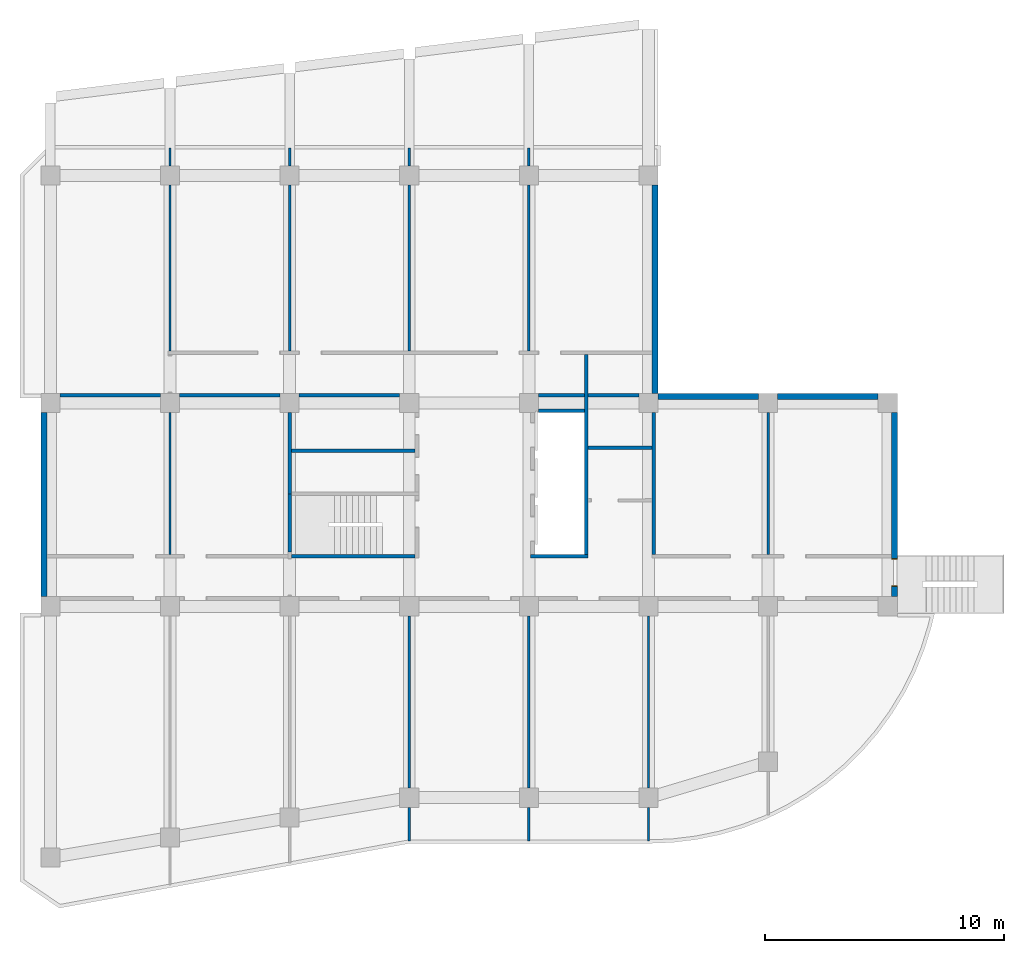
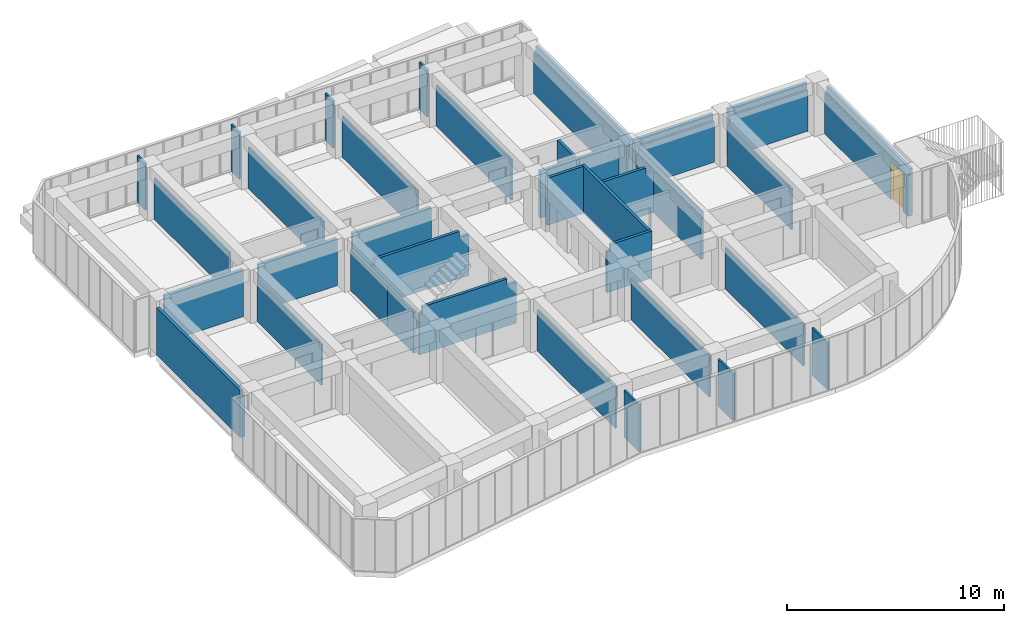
# One storey, part 2 of 6: 27 walls, 1 door, 1 opening.
"""IFC2X3 building model written with IfcOpenShell, lengths in millimetres."""

from ifc_helpers import new_model, entity, si_unit, converted_unit, derived_unit, money_unit, direction, frame, origin_with_axes, place, context, subcontext, project, spatial, open_shell, faceted_brep, surface_model, source, transform, mapped, material, type_object, element, fill, save


model = new_model("IFC2X3")

# Units and contexts
model_context = context("Model", 3, precision=0.01, world=origin_with_axes(), true_north=direction((0.0, 1.0)))
body_context = subcontext(model_context, "Body", "Model", "MODEL_VIEW")
ifc_project = project(units=[si_unit("LENGTHUNIT", "METRE", prefix="MILLI"), si_unit("AREAUNIT", "SQUARE_METRE"), si_unit("VOLUMEUNIT", "CUBIC_METRE"), converted_unit("PLANEANGLEUNIT", "DEGREE", entity("IfcPlaneAngleMeasure", 0.0174532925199), si_unit("PLANEANGLEUNIT", "RADIAN"), dimensions=[0, 0, 0, 0, 0, 0, 0]), si_unit("SOLIDANGLEUNIT", "STERADIAN"), money_unit("JPY"), converted_unit("TIMEUNIT", "Year", entity("IfcTimeMeasure", 31556926.0), si_unit("TIMEUNIT", "SECOND"), dimensions=[0, 0, 1, 0, 0, 0, 0]), si_unit("MASSUNIT", "GRAM", prefix="KILO"), si_unit("THERMODYNAMICTEMPERATUREUNIT", "DEGREE_CELSIUS"), si_unit("LUMINOUSINTENSITYUNIT", "LUMEN"), si_unit("ENERGYUNIT", "JOULE", prefix="MEGA"), derived_unit("THERMALCONDUCTANCEUNIT", [(si_unit("POWERUNIT", "WATT"), 1), (si_unit("LENGTHUNIT", "METRE"), -1), (si_unit("THERMODYNAMICTEMPERATUREUNIT", "KELVIN"), -1)]), derived_unit("SPECIFICHEATCAPACITYUNIT", [(si_unit("ENERGYUNIT", "JOULE"), 1), (si_unit("MASSUNIT", "GRAM", prefix="KILO"), -1), (si_unit("THERMODYNAMICTEMPERATUREUNIT", "KELVIN"), -1)]), derived_unit("MASSDENSITYUNIT", [(si_unit("MASSUNIT", "GRAM", prefix="KILO"), 1), (si_unit("VOLUMEUNIT", "CUBIC_METRE"), -1)])], contexts=[model_context])

# Site, building, storey
site_placement = place(None, origin_with_axes())
site = spatial("IfcSite", under=ifc_project, at=site_placement, Name="サイト", CompositionType="ELEMENT")
building_placement = place(site_placement, origin_with_axes())
building = spatial("IfcBuilding", under=site, at=building_placement, Name="建築", CompositionType="ELEMENT")
storey_placement = place(building_placement, frame((0.0, 0.0, 6000.0), z_axis=(0.0, 0.0, 1.0), x_axis=(1.0, 0.0, 0.0)))
storey = spatial("IfcBuildingStorey", under=building, at=storey_placement, Name="3FL", CompositionType="ELEMENT", Elevation=6000.0)

# Walls
ifc_material_1 = material(Name="コンクリート")
wall_type_1 = type_object("IfcWallType", Name="コンクリート 150", PredefinedType="NOTDEFINED")
wall_1_placement = place(storey_placement, frame((10000.0, 2100.0, 0.0), z_axis=(0.0, 0.0, 1.0), x_axis=(1.0, 0.0, 0.0)))
element("IfcWall", 1, at=wall_1_placement, inside=storey, type_object=wall_type_1, material=ifc_material_1, Name="W3", context=body_context, shape_type="Brep", body=[
    faceted_brep([(75.0, 75.0, 0.0), (75.0, 75.0, 2300.0), (250.0, 75.0, 2300.0), (250.0, 75.0, 2650.0), (3631.20524398, 75.0, 2650.0), (4750.0, 75.0, 2650.0), (4750.0, 75.0, 2300.0), (5250.0, 75.0, 2300.0), (5249.99999555, 75.0, 0.0), (75.0, -75.0, 0.0), (75.0, -75.0, 2300.0), (250.0, -75.0, 2300.0), (250.0, -75.0, 2650.0), (4750.0, -75.0, 2650.0), (4750.0, -75.0, 2300.0), (5250.0, -75.0, 2300.0), (5249.99999555, -75.0, 0.0)], [[[0, 1, 2, 3, 4, 5, 6, 7, 8]], [[9, 10, 1, 0]], [[11, 2, 1, 10]], [[11, 12, 3, 2]], [[4, 3, 12, 13, 5]], [[14, 6, 5, 13]], [[14, 15, 7, 6]], [[8, 7, 15, 16]], [[0, 8, 16, 9]], [[12, 11, 10, 9, 16, 15, 14, 13]]]),
])
wall_2_placement = place(storey_placement, frame((20150.0, 8175.0, 0.0), z_axis=(0.0, 0.0, 1.0), x_axis=(1.0, 0.0, 0.0)))
element("IfcWall", 2, at=wall_2_placement, inside=storey, type_object=wall_type_1, material=ifc_material_1, Name="W8", context=body_context, shape_type="Brep", body=[
    faceted_brep([(2175.0, 75.0, 0.0), (250.0, 75.0, 0.0), (250.0, 75.0, 2650.0), (2175.0, 75.0, 2650.0), (2175.0, -75.0, 0.0), (250.0, -75.0, 0.0), (250.0, -75.0, 2650.0), (2175.0, -75.0, 2650.0)], [[[0, 1, 2, 3]], [[4, 5, 1, 0]], [[5, 6, 2, 1]], [[3, 2, 6, 7]], [[7, 4, 0, 3]], [[7, 6, 5, 4]]]),
])
wall_3_placement = place(storey_placement, frame((10000.0, 6500.0, 0.0), z_axis=(0.0, 0.0, 1.0), x_axis=(1.0, 0.0, 0.0)))
element("IfcWall", 3, at=wall_3_placement, inside=storey, type_object=wall_type_1, material=ifc_material_1, Name="W5", context=body_context, shape_type="Brep", body=[
    faceted_brep([(75.0, 75.0, 0.0), (75.0, 75.0, 2300.0), (250.0, 75.0, 2300.0), (250.0, 75.0, 2650.0), (4750.0, 75.0, 2650.0), (4750.0, 75.0, 2300.0), (5250.0, 75.0, 2300.0), (5249.99999555, 75.0, 0.0), (75.0, -75.0, 0.0), (75.0, -75.0, 2300.0), (250.0, -75.0, 2300.0), (250.0, -75.0, 2650.0), (4750.0, -75.0, 2650.0), (4750.0, -75.0, 2300.0), (5250.0, -75.0, 2300.0), (5249.99999555, -75.0, 0.0)], [[[0, 1, 2, 3, 4, 5, 6, 7]], [[8, 9, 1, 0]], [[10, 2, 1, 9]], [[10, 11, 3, 2]], [[4, 3, 11, 12]], [[13, 5, 4, 12]], [[13, 14, 6, 5]], [[7, 6, 14, 15]], [[8, 0, 7, 15]], [[11, 10, 9, 8, 15, 14, 13, 12]]]),
])
wall_4_placement = place(storey_placement, frame((10000.0, 4700.0, 0.0), z_axis=(0.0, 0.0, 1.0), x_axis=(0.0, 1.0, 0.0)))
element("IfcWall", 4, at=wall_4_placement, inside=storey, type_object=wall_type_1, material=ifc_material_1, Name="W1", context=body_context, shape_type="Brep", body=[
    faceted_brep([(0.0, -75.0, 0.0), (3400.0, -75.0, 0.0), (3400.0, -75.0, 2300.0), (0.0, -75.0, 2300.0), (0.0, 75.0, 0.0), (3400.0, 75.0, 0.0), (3400.0, 75.0, 2300.0), (0.0, 75.0, 2300.0)], [[[0, 1, 2, 3]], [[4, 5, 1, 0]], [[5, 6, 2, 1]], [[3, 2, 6, 7]], [[4, 0, 3, 7]], [[7, 6, 5, 4]]]),
])
wall_5_placement = place(storey_placement, frame((10000.0, 4700.0, 0.0), z_axis=(0.0, 0.0, 1.0), x_axis=(0.0, -1.0, 0.0)))
element("IfcWall", 5, at=wall_5_placement, inside=storey, type_object=wall_type_1, material=ifc_material_1, Name="W2", context=body_context, shape_type="Brep", body=[
    faceted_brep([(0.0, -75.0, 0.0), (0.0, -75.0, 2300.0), (0.0, 75.0, 2300.0), (0.0, 75.0, 0.0), (2425.0, -75.0, 0.0), (2425.0, -75.0, 2300.0), (2425.0, 75.0, 2300.0), (2425.0, 75.0, 0.0)], [[[0, 1, 2, 3]], [[4, 5, 1, 0]], [[5, 6, 2, 1]], [[3, 2, 6, 7]], [[4, 0, 3, 7]], [[7, 6, 5, 4]]]),
])
wall_6_placement = place(storey_placement, frame((22400.0, 2100.0, 0.0), z_axis=(0.0, 0.0, 1.0), x_axis=(0.0, 1.0, 0.0)))
element("IfcWall", 6, at=wall_6_placement, inside=storey, type_object=wall_type_1, material=ifc_material_1, Name="W8", context=body_context, shape_type="Brep", body=[
    faceted_brep([(8425.0, 75.0, 2650.0), (6650.0, 75.0, 2650.0), (6650.0, -75.0, 2650.0), (8425.0, -75.0, 2650.0), (6150.0, 75.0, 2300.0), (6650.0, 75.0, 2300.0), (8425.0, 75.0, 0.0), (75.0, 75.0, 0.0), (75.0, 75.0, 2650.0), (6150.0, 75.0, 2650.0), (6650.0, -75.0, 2300.0), (6150.0, -75.0, 2300.0), (6150.0, -75.0, 2650.0), (75.0, -75.0, 2650.0), (75.0, -75.0, 0.0), (8425.0, -75.0, 0.0)], [[[0, 1, 2, 3]], [[4, 5, 1, 0, 6, 7, 8, 9]], [[5, 10, 2, 1]], [[10, 11, 12, 13, 14, 15, 3, 2]], [[15, 6, 0, 3]], [[4, 11, 10, 5]], [[14, 7, 6, 15]], [[7, 14, 13, 8]], [[13, 12, 9, 8]], [[4, 9, 12, 11]]]),
])
wall_7_placement = place(storey_placement, frame((20150.0, 2100.0, 0.0), z_axis=(0.0, 0.0, 1.0), x_axis=(1.0, 0.0, 0.0)))
element("IfcWall", 7, at=wall_7_placement, inside=storey, type_object=wall_type_1, material=ifc_material_1, Name="W7", context=body_context, shape_type="Brep", body=[
    faceted_brep([(-75.0, 75.0, 0.0), (-75.0, 75.0, 2300.0), (100.0, 75.0, 2300.0), (100.0, 75.0, 2650.0), (2325.0, 75.0, 2650.0), (2325.0, 75.0, 0.0), (-75.0, -75.0, 0.0), (-75.0, -75.0, 2300.0), (100.0, -75.0, 2300.0), (100.0, -75.0, 2650.0), (2325.0, -75.0, 2650.0), (2325.0, -75.0, 0.0)], [[[0, 1, 2, 3, 4, 5]], [[6, 7, 1, 0]], [[8, 2, 1, 7]], [[8, 9, 3, 2]], [[4, 3, 9, 10]], [[11, 5, 4, 10]], [[6, 0, 5, 11]], [[9, 8, 7, 6, 11, 10]]]),
])
wall_8_placement = place(storey_placement, frame((25224.9999795, 2100.0, 0.0), z_axis=(0.0, 0.0, 1.0), x_axis=(0.0, 1.0, 0.0)))
element("IfcWall", 8, at=wall_8_placement, inside=storey, type_object=wall_type_1, material=ifc_material_1, Name="W5", context=body_context, shape_type="Brep", body=[
    faceted_brep([(75.0, -75.0, 0.0), (6000.0, -75.0, 0.0), (6000.0, -75.0, 2650.0), (75.0, -75.0, 2650.0), (75.0, 75.0, 0.0), (6000.0, 75.0, 0.0), (6000.0, -25.0000205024, 2300.0), (6000.0, -25.0000205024, 2650.0), (6000.0, 75.0, 2300.0), (75.0, -25.0000205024, 2650.0), (75.0, -25.0000205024, 2300.0), (75.0, 75.0, 2300.0)], [[[0, 1, 2, 3]], [[4, 5, 1, 0]], [[6, 7, 2, 1, 5, 8]], [[3, 2, 7, 9]], [[3, 9, 10, 11, 4, 0]], [[11, 8, 5, 4]], [[9, 7, 6, 10]], [[10, 6, 8, 11]]]),
])
wall_9_placement = place(storey_placement, frame((22400.0, 6625.000045, 0.0), z_axis=(0.0, 0.0, 1.0), x_axis=(1.0, 0.0, 0.0)))
element("IfcWall", 9, at=wall_9_placement, inside=storey, type_object=wall_type_1, material=ifc_material_1, Name="W8", context=body_context, shape_type="Brep", body=[
    faceted_brep([(75.0, 75.0, 2650.0), (2350.0, 75.0, 2650.0), (2350.0, 75.0, 2300.0), (2749.9999795, 75.0, 2300.0), (2749.9999795, 75.0, 0.0), (75.0, 75.0, 0.0), (75.0, -75.0, 2650.0), (2350.0, -75.0, 2650.0), (2350.0, -75.0, 2300.0), (2749.9999795, -75.0, 2300.0), (2749.9999795, -75.0, 0.0), (75.0, -75.0, 0.0)], [[[0, 1, 2, 3, 4, 5]], [[6, 7, 1, 0]], [[8, 2, 1, 7]], [[8, 9, 3, 2]], [[4, 3, 9, 10]], [[11, 5, 4, 10]], [[5, 11, 6, 0]], [[9, 8, 7, 6, 11, 10]]]),
])
wall_10_placement = place(storey_placement, frame((20150.0, 8825.000045, 0.0), z_axis=(0.0, 0.0, 1.0), x_axis=(1.0, 0.0, 0.0)))
element("IfcWall", 10, at=wall_10_placement, inside=storey, type_object=wall_type_1, material=ifc_material_1, Name="W6", context=body_context, shape_type="Brep", body=[
    faceted_brep([(2175.0, 75.0, 0.0), (250.0, 74.999955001, 0.0), (250.0, 74.999955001, 2650.0), (2175.0, 75.0, 2650.0), (2175.0, -75.0, 0.0), (250.0, -75.0, 0.0), (250.0, -75.0, 2650.0), (2175.0, -75.0, 2650.0)], [[[0, 1, 2, 3]], [[4, 5, 1, 0]], [[5, 6, 2, 1]], [[3, 2, 6, 7]], [[7, 4, 0, 3]], [[7, 6, 5, 4]]]),
    faceted_brep([(2325.0, -75.0, 2650.0), (4450.0, -75.000042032, 2650.0), (4450.0, 74.999955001, 2650.0), (2325.0, 75.0, 2650.0), (2325.0, -75.0, 0.0), (4450.0, -75.0, 0.0), (4450.0, 74.999955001, 0.0), (2325.0, 75.0, 0.0)], [[[0, 1, 2, 3]], [[4, 5, 1, 0]], [[5, 6, 2, 1]], [[3, 2, 6, 7]], [[3, 7, 4, 0]], [[7, 6, 5, 4]]]),
])
wall_11_placement = place(storey_placement, frame((15324.9999955, 8825.000045, 0.0), z_axis=(0.0, 0.0, 1.0), x_axis=(-1.0, 0.0, 0.0)))
element("IfcWall", 11, at=wall_11_placement, inside=storey, type_object=wall_type_1, material=ifc_material_1, Name="W8", context=body_context, shape_type="Brep", body=[
    faceted_brep([(4924.99999555, 75.0, 2650.0), (724.999995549, 75.0, 2650.0), (724.999995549, -74.999955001, 2650.0), (4924.99999555, -74.999955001, 2650.0), (4924.99999555, 75.0, 0.0), (724.999995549, 75.0, 0.0), (724.999995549, -74.999955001, 0.0), (4924.99999555, -74.999955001, 0.0)], [[[0, 1, 2, 3]], [[4, 5, 1, 0]], [[5, 6, 2, 1]], [[3, 2, 6, 7]], [[4, 0, 3, 7]], [[7, 6, 5, 4]]]),
])
for number, where, z_axis, x_axis, name in (
    (12, (10000.0, 8825.000045, 0.0), (0.0, 0.0, 1.0), (-1.0, 0.0, 0.0), "W9"),
    (13, (5000.0, 8825.000045, 0.0), (0.0, 0.0, 1.0), (-1.0, 0.0, 0.0), "W0"),
):
    element("IfcWall", number, at=place(storey_placement, frame(where, z_axis=z_axis, x_axis=x_axis)), inside=storey, type_object=wall_type_1, material=ifc_material_1, Name=name, context=body_context, shape_type="Brep", body=[
        faceted_brep([(4600.0, 75.0, 2650.0), (400.0, 75.0, 2650.0), (400.0, -74.999955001, 2650.0), (4600.0, -74.999955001, 2650.0), (4600.0, 75.0, 0.0), (400.0, 75.0, 0.0), (400.0, -74.999955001, 0.0), (4600.0, -74.999955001, 0.0)], [[[0, 1, 2, 3]], [[4, 5, 1, 0]], [[5, 6, 2, 1]], [[3, 2, 6, 7]], [[4, 0, 3, 7]], [[7, 6, 5, 4]]]),
    ])
wall_type_2 = type_object("IfcWallType", Name="コンクリート 250", PredefinedType="NOTDEFINED")
wall_12_placement = place(storey_placement, frame((30000.0, 8775.0, 0.0), z_axis=(0.0, 0.0, 1.0), x_axis=(-1.0, 0.0, 0.0)))
element("IfcWall", 14, at=wall_12_placement, inside=storey, type_object=wall_type_2, material=ifc_material_1, Name="W1", context=body_context, shape_type="Brep", body=[
    faceted_brep([(4600.0, 25.0, 2650.0), (400.0, 25.0, 2650.0), (400.0, -125.0, 2650.0), (4600.0, -125.0, 2650.0), (4600.0, 25.0, 2300.0), (400.0, 25.0, 2300.0), (400.0, 125.0, 0.0), (400.0, -125.0, 0.0), (400.0, 125.0, 2300.0), (4600.0, -125.0, 0.0), (4600.0, 125.0, 0.0), (4600.0, 125.0, 2300.0)], [[[0, 1, 2, 3]], [[4, 5, 1, 0]], [[6, 7, 2, 1, 5, 8]], [[3, 2, 7, 9]], [[4, 0, 3, 9, 10, 11]], [[11, 8, 5, 4]], [[9, 7, 6, 10]], [[10, 6, 8, 11]]]),
])

# Wall, opening, door
wall_13_placement = place(storey_placement, frame((35274.9999654, -400.0, 0.0), z_axis=(0.0, 0.0, 1.0), x_axis=(0.0, 1.0, 0.0)))
wall_13 = element("IfcWall", 15, at=wall_13_placement, inside=storey, type_object=wall_type_2, material=ifc_material_1, Name="W0", context=body_context, shape_type="Brep", body=[
    faceted_brep([(1230.0, -125.000034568, 0.0), (1230.0, -125.000034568, 2130.0), (2390.0, -125.000034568, 2130.0), (2390.0, -125.000034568, 0.0), (8500.0, -125.000034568, 0.0), (8500.0, -125.000034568, 2650.0), (800.0, -125.000034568, 2650.0), (800.0, -125.000034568, 0.0), (1230.0, 125.0, 0.0), (1230.0, 125.0, 2130.0), (2390.0, 125.0, 2130.0), (2390.0, 125.0, 0.0), (8500.0, 125.0, 0.0), (8500.0, 125.0, 2300.0), (8500.0, 24.9999654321, 2300.0), (8500.0, 24.9999654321, 2650.0), (800.0, 24.9999654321, 2650.0), (800.0, 24.9999654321, 2300.0), (800.0, 125.0, 2300.0), (800.0, 125.0, 0.0)], [[[0, 1, 2, 3, 4, 5, 6, 7]], [[1, 0, 8, 9]], [[2, 1, 9, 10]], [[3, 2, 10, 11]], [[3, 11, 12, 4]], [[4, 12, 13, 14, 15, 5]], [[16, 6, 5, 15]], [[16, 17, 18, 19, 7, 6]], [[8, 0, 7, 19]], [[9, 8, 19, 18, 13, 12, 11, 10]], [[18, 17, 14, 13]], [[17, 16, 15, 14]]]),
])
opening_placement = place(wall_13_placement, frame((1810.0, 0.0, 0.0), z_axis=(0.0, 0.0, 1.0), x_axis=(1.0, 0.0, 0.0)))
opening = element("IfcOpeningElement", 16, at=opening_placement, cuts=wall_13, Name="FSD2", context=body_context, shape_type="Brep", body=[
    faceted_brep([(-580.0, -260.0, 0.0), (-580.0, -260.0, 2130.0), (-580.0, 260.0, 2130.0), (-580.0, 260.0, 0.0), (580.0, -260.0, 0.0), (580.0, -260.0, 2130.0), (580.0, 260.0, 2130.0), (580.0, 260.0, 0.0)], [[[0, 1, 2, 3]], [[0, 4, 5, 1]], [[1, 5, 6, 2]], [[3, 2, 6, 7]], [[4, 0, 3, 7]], [[5, 4, 7, 6]]]),
])
door_style = type_object("IfcDoorStyle", Name="片開き戸", ConstructionType="NOTDEFINED", OperationType="NOTDEFINED", ParameterTakesPrecedence=False, Sizeable=False)
shared_shape = source(origin_with_axes(), body_context, "Body", "SurfaceModel", [
    surface_model("IfcShellBasedSurfaceModel", [(550.0, -135.0, 0.0), (-550.0, -135.0, 0.0), (-550.0, -135.0, 2100.0), (550.0, -135.0, 2100.0)], [open_shell([[[0, 1, 2, 3]]])]),
    surface_model("IfcShellBasedSurfaceModel", [(580.0, -10.0, 0.0), (550.0, -10.0, 0.0), (550.0, -10.0, 2100.0), (-550.0, -10.0, 2100.0), (-550.0, -10.0, 0.0), (-580.0, -10.0, 0.0), (-580.0, -10.0, 2130.0), (580.0, -10.0, 2130.0)], [open_shell([[[0, 1, 2, 3, 4, 5, 6, 7]]])]),
    surface_model("IfcShellBasedSurfaceModel", [(580.0, -260.0, 0.0), (550.0, -260.0, 0.0), (550.0, -260.0, 2100.0), (-550.0, -260.0, 2100.0), (-550.0, -260.0, 0.0), (-580.0, -260.0, 0.0), (-580.0, -260.0, 2130.0), (580.0, -260.0, 2130.0)], [open_shell([[[0, 1, 2, 3, 4, 5, 6, 7]]])]),
    surface_model("IfcShellBasedSurfaceModel", [(550.0, -10.0, 0.0), (550.0, -260.0, 0.0), (550.0, -260.0, 2100.0), (550.0, -10.0, 2100.0), (580.0, -10.0, 0.0), (580.0, -260.0, 0.0), (-550.0, -260.0, 2100.0), (-550.0, -10.0, 2100.0), (580.0, -10.0, 2130.0), (580.0, -260.0, 2130.0), (-550.0, -260.0, 0.0), (-550.0, -10.0, 0.0), (-580.0, -10.0, 2130.0), (-580.0, -260.0, 2130.0), (-580.0, -260.0, 0.0), (-580.0, -10.0, 0.0)], [open_shell([[[0, 1, 2, 3]], [[4, 5, 1, 0]], [[3, 2, 6, 7]], [[8, 9, 5, 4]], [[7, 6, 10, 11]], [[12, 13, 9, 8]], [[11, 10, 14, 15]], [[15, 14, 13, 12]]])]),
])
door_placement = place(opening_placement, frame((550.0, 0.0, 0.0), z_axis=(0.0, 0.0, 1.0), x_axis=(-1.0, 0.0, 0.0)))
door = element("IfcDoor", 17, at=door_placement, inside=storey, type_object=door_style, Name="FSD2", OverallHeight=2165.0, OverallWidth=1230.0, context=body_context, shape_type="MappedRepresentation", body=[
    mapped(shared_shape, transform((550.0, 135.0, 0.0))),
])
fill(opening, door)

# Walls
wall_14_placement = place(storey_placement, frame((35274.9999654, 8774.99999002, 0.0), z_axis=(0.0, 0.0, 1.0), x_axis=(-1.0, 0.0, 0.0)))
element("IfcWall", 18, at=wall_14_placement, inside=storey, type_object=wall_type_2, material=ifc_material_1, Name="W0", context=body_context, shape_type="Brep", body=[
    faceted_brep([(4874.99996543, 24.9999900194, 2650.0), (674.999965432, 24.9999900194, 2650.0), (674.999965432, -125.000009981, 2650.0), (4874.99996543, -125.000009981, 2650.0), (4874.99996543, 24.9999900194, 2300.0), (674.999965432, 24.9999900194, 2300.0), (674.999965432, 125.0, 0.0), (674.999965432, -125.000009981, 0.0), (674.999965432, 125.000010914, 2300.0), (4874.99996543, -125.000009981, 0.0), (4874.99996543, 125.0, 0.0), (4874.99996543, 125.000000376, 2300.0)], [[[0, 1, 2, 3]], [[4, 5, 1, 0]], [[6, 7, 2, 1, 5, 8]], [[3, 2, 7, 9]], [[4, 0, 3, 9, 10, 11]], [[11, 8, 5, 4]], [[9, 7, 6, 10]], [[10, 6, 8, 11]]]),
])
wall_15_placement = place(storey_placement, frame((25275.0000022, 8775.0, 0.0), z_axis=(0.0, 0.0, 1.0), x_axis=(0.0, 1.0, 0.0)))
element("IfcWall", 19, at=wall_15_placement, inside=storey, type_object=wall_type_2, material=ifc_material_1, Name="W2", context=body_context, shape_type="Brep", body=[
    faceted_brep([(125.0, -125.0, 0.0), (8825.0, -124.999997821, 0.0), (8825.0, -124.999997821, 2650.0), (125.000115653, -125.000021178, 2650.0), (125.0, 125.0, 0.0), (8825.0, 125.0, 0.0), (8825.0, 25.0000021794, 2300.0), (8825.0, 25.0000021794, 2650.0), (8825.0, 125.0, 2300.0), (125.000046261, 25.0000021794, 2650.0), (125.000115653, 25.0000021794, 2300.0), (125.0, 125.0, 2300.0)], [[[0, 1, 2, 3]], [[4, 5, 1, 0]], [[6, 7, 2, 1, 5, 8]], [[3, 2, 7, 9]], [[3, 9, 10, 11, 4, 0]], [[11, 8, 5, 4]], [[9, 7, 6, 10]], [[10, 6, 8, 11]]]),
])
wall_16_placement = place(storey_placement, frame((-275.00006329, 8825.000045, 0.0), z_axis=(0.0, 0.0, 1.0), x_axis=(0.0, -1.0, 0.0)))
element("IfcWall", 20, at=wall_16_placement, inside=storey, type_object=wall_type_2, material=ifc_material_1, Name="W1", context=body_context, shape_type="Brep", body=[
    faceted_brep([(725.000044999, 25.0000632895, 2300.0), (8425.000045, 25.0000632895, 2300.0), (8425.000045, 125.0, 2300.0), (725.000044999, 125.0, 2300.0), (725.000044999, 25.0000632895, 2650.0), (8425.000045, 25.0000632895, 2650.0), (8425.000045, -124.99993671, 0.0), (8425.000045, 125.0, 0.0), (8425.000045, -124.99993671, 2650.0), (725.000044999, 125.0, 0.0), (725.000044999, -124.99993671, 0.0), (725.000044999, -124.99993671, 2650.0)], [[[0, 1, 2, 3]], [[4, 5, 1, 0]], [[6, 7, 2, 1, 5, 8]], [[3, 2, 7, 9]], [[4, 0, 3, 9, 10, 11]], [[11, 8, 5, 4]], [[9, 7, 6, 10]], [[10, 6, 8, 11]]]),
])
ifc_material_2 = material(Name="石膏ボード")
wall_type_3 = type_object("IfcWallType", Name="石膏ボード 100", PredefinedType="NOTDEFINED")
for number, where, z_axis, x_axis, name in (
    (21, (25000.0, 325.000021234, 0.0), (0.0, 0.0, 1.0), (0.0, -1.0, 0.0), "W12"),
    (22, (20000.0, 325.000021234, 0.0), (0.0, 0.0, 1.0), (0.0, -1.0, 0.0), "W11"),
):
    element("IfcWall", number, at=place(storey_placement, frame(where, z_axis=z_axis, x_axis=x_axis)), inside=storey, type_object=wall_type_3, material=ifc_material_2, Name=name, context=body_context, shape_type="Brep", body=[
        faceted_brep([(10125.0000212, 50.0, 0.0), (8725.00002123, 50.0, 0.0), (8725.00002123, 50.0, 2650.0), (10125.0000212, 50.0, 2650.0), (10125.0000212, -50.0, 0.0), (8725.00002123, -50.0, 0.0), (8725.00002123, -50.0, 2650.0), (10125.0000212, -50.0, 2650.0)], [[[0, 1, 2, 3]], [[4, 5, 1, 0]], [[5, 6, 2, 1]], [[3, 2, 6, 7]], [[7, 4, 0, 3]], [[7, 6, 5, 4]]]),
        faceted_brep([(7925.00002123, 50.0, 0.0), (725.000021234, 50.0, 0.0), (725.000021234, 50.0, 2300.0), (7925.00002123, 50.0, 2300.0), (7925.00002123, -50.0, 0.0), (725.000021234, -50.0, 0.0), (725.000021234, -50.0, 2300.0), (7925.00002123, -50.0, 2300.0)], [[[0, 1, 2, 3]], [[4, 5, 1, 0]], [[5, 6, 2, 1]], [[3, 2, 6, 7]], [[4, 0, 3, 7]], [[7, 6, 5, 4]]]),
    ])
wall_17_placement = place(storey_placement, frame((5000.0, 2100.0, 0.0), z_axis=(0.0, 0.0, 1.0), x_axis=(0.0, 1.0, 0.0)))
element("IfcWall", 23, at=wall_17_placement, inside=storey, type_object=wall_type_3, material=ifc_material_2, Name="W13", context=body_context, shape_type="Brep", body=[
    faceted_brep([(75.0, -50.0, 0.0), (6000.0, -50.0, 0.0), (6000.0, -50.0, 2300.0), (75.0, -50.0, 2300.0), (75.0, 50.0, 0.0), (6000.0, 50.0, 0.0), (6000.0, 50.0, 2300.0), (75.0, 50.0, 2300.0)], [[[0, 1, 2, 3]], [[4, 5, 1, 0]], [[5, 6, 2, 1]], [[3, 2, 6, 7]], [[4, 0, 3, 7]], [[7, 6, 5, 4]]]),
])
wall_18_placement = place(storey_placement, frame((15000.0, 324.999998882, 0.0), z_axis=(0.0, 0.0, 1.0), x_axis=(0.0, -1.0, 0.0)))
element("IfcWall", 24, at=wall_18_placement, inside=storey, type_object=wall_type_3, material=ifc_material_2, Name="W10", context=body_context, shape_type="Brep", body=[
    faceted_brep([(10124.9999989, 50.0, 0.0), (8724.99999888, 50.0, 0.0), (8724.99999888, 50.0, 2650.0), (10124.9999989, 50.0, 2650.0), (10124.9999989, -50.0, 0.0), (8724.99999888, -50.0, 0.0), (8724.99999888, -50.0, 2650.0), (10124.9999989, -50.0, 2650.0), (10124.9999989, 0.0, 2650.0)], [[[0, 1, 2, 3]], [[4, 5, 1, 0]], [[5, 6, 2, 1]], [[3, 2, 6, 7, 8]], [[4, 0, 3, 8, 7]], [[7, 6, 5, 4]]]),
    faceted_brep([(7924.99999888, 50.0, 0.0), (724.999998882, 50.0, 0.0), (724.999998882, 50.0, 2300.0), (7924.99999888, 50.0, 2300.0), (7924.99999888, -50.0, 0.0), (724.999998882, -50.0, 0.0), (724.999998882, -50.0, 2300.0), (7924.99999888, -50.0, 2300.0)], [[[0, 1, 2, 3]], [[4, 5, 1, 0]], [[5, 6, 2, 1]], [[3, 2, 6, 7]], [[4, 0, 3, 7]], [[7, 6, 5, 4]]]),
])
wall_19_placement = place(storey_placement, frame((5000.0, 10600.0, 0.0), z_axis=(0.0, 0.0, 1.0), x_axis=(0.0, 1.0, 0.0)))
element("IfcWall", 25, at=wall_19_placement, inside=storey, type_object=wall_type_3, material=ifc_material_2, Name="W13", context=body_context, shape_type="Brep", body=[
    faceted_brep([(75.0, -50.0, 0.0), (7000.0, -50.0, 0.0), (7000.0, -50.0, 2300.0), (75.0, -50.0, 2300.0), (75.0, 50.0, 0.0), (7000.0, 50.0, 0.0), (7000.0, 50.0, 2300.0), (75.0, 50.0, 2300.0)], [[[0, 1, 2, 3]], [[4, 5, 1, 0]], [[5, 6, 2, 1]], [[3, 2, 6, 7]], [[4, 0, 3, 7]], [[7, 6, 5, 4]]]),
    faceted_brep([(8549.99999421, 50.0, 2650.0), (7800.0, 50.0, 2650.0), (7800.0, -50.0, 2650.0), (8549.99999424, -50.0, 2650.0), (8549.99999422, 50.0, 0.0), (7800.0, 50.0, 0.0), (7800.0, -50.0, 0.0), (8549.99999422, -50.0, 0.0)], [[[0, 1, 2, 3]], [[4, 5, 1, 0]], [[5, 6, 2, 1]], [[3, 2, 6, 7]], [[3, 7, 4, 0]], [[7, 6, 5, 4]]]),
])
wall_20_placement = place(storey_placement, frame((10000.0, 19150.0000012, 0.0), z_axis=(0.0, 0.0, 1.0), x_axis=(0.0, -1.0, 0.0)))
element("IfcWall", 26, at=wall_20_placement, inside=storey, type_object=wall_type_3, material=ifc_material_2, Name="W14", context=body_context, shape_type="Brep", body=[
    faceted_brep([(8475.00000118, 50.0, 0.0), (1550.00000118, 50.0, 0.0), (1550.00000118, 50.0, 2300.0), (8475.00000118, 50.0, 2300.0), (8475.00000118, -50.0, 0.0), (1550.00000118, -50.0, 0.0), (1550.00000118, -50.0, 2300.0), (8475.00000118, -50.0, 2300.0)], [[[0, 1, 2, 3]], [[4, 5, 1, 0]], [[5, 6, 2, 1]], [[3, 2, 6, 7]], [[4, 0, 3, 7]], [[7, 6, 5, 4]]]),
    faceted_brep([(5.55584023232e-06, -50.0, 2650.0), (750.00000118, -50.0, 2650.0), (750.00000118, 50.0, 2650.0), (5.52751444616e-06, 50.0, 2650.0), (0.0, -50.0, 0.0), (750.00000118, -50.0, 0.0), (750.00000118, 50.0, 0.0), (0.0, 50.0, 0.0)], [[[0, 1, 2, 3]], [[4, 5, 1, 0]], [[5, 6, 2, 1]], [[3, 2, 6, 7]], [[3, 7, 4, 0]], [[7, 6, 5, 4]]]),
])
wall_21_placement = place(storey_placement, frame((15000.0, 19149.9999971, 0.0), z_axis=(0.0, 0.0, 1.0), x_axis=(0.0, -1.0, 0.0)))
element("IfcWall", 27, at=wall_21_placement, inside=storey, type_object=wall_type_3, material=ifc_material_2, Name="W15", context=body_context, shape_type="Brep", body=[
    faceted_brep([(8474.99999705, 50.0, 0.0), (1549.99999705, 50.0, 0.0), (1549.99999705, 50.0, 2300.0), (8474.99999705, 50.0, 2300.0), (8474.99999705, -50.0, 0.0), (1549.99999705, -50.0, 0.0), (1549.99999705, -50.0, 2300.0), (8474.99999705, -50.0, 2300.0)], [[[0, 1, 2, 3]], [[4, 5, 1, 0]], [[5, 6, 2, 1]], [[3, 2, 6, 7]], [[4, 0, 3, 7]], [[7, 6, 5, 4]]]),
    faceted_brep([(1.41646694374e-08, -50.0, 2650.0), (749.999997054, -50.0, 2650.0), (749.999997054, 50.0, 2650.0), (-1.41611167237e-08, 50.0, 2650.0), (0.0, -50.0, 0.0), (749.999997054, -50.0, 0.0), (749.999997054, 50.0, 0.0), (0.0, 50.0, 0.0)], [[[0, 1, 2, 3]], [[4, 5, 1, 0]], [[5, 6, 2, 1]], [[3, 2, 6, 7]], [[3, 7, 4, 0]], [[7, 6, 5, 4]]]),
])
wall_22_placement = place(storey_placement, frame((20000.0, 19149.9999985, 0.0), z_axis=(0.0, 0.0, 1.0), x_axis=(0.0, -1.0, 0.0)))
element("IfcWall", 28, at=wall_22_placement, inside=storey, type_object=wall_type_3, material=ifc_material_2, Name="W14", context=body_context, shape_type="Brep", body=[
    faceted_brep([(8474.99999847, 50.0, 0.0), (1549.99999847, 50.0, 0.0), (1549.99999847, 50.0, 2300.0), (8474.99999847, 50.0, 2300.0), (8474.99999847, -50.0, 0.0), (1549.99999847, -50.0, 0.0), (1549.99999847, -50.0, 2300.0), (8474.99999847, -50.0, 2300.0)], [[[0, 1, 2, 3]], [[4, 5, 1, 0]], [[5, 6, 2, 1]], [[3, 2, 6, 7]], [[4, 0, 3, 7]], [[7, 6, 5, 4]]]),
    faceted_brep([(1.41682221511e-08, -50.0, 2650.0), (749.999998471, -50.0, 2650.0), (749.999998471, 50.0, 2650.0), (-1.415756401e-08, 50.0, 2650.0), (0.0, -50.0, 0.0), (749.999998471, -50.0, 0.0), (749.999998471, 50.0, 0.0), (0.0, 50.0, 0.0)], [[[0, 1, 2, 3]], [[4, 5, 1, 0]], [[5, 6, 2, 1]], [[3, 2, 6, 7]], [[3, 7, 4, 0]], [[7, 6, 5, 4]]]),
])
wall_23_placement = place(storey_placement, frame((30000.0, 2100.0, 0.0), z_axis=(0.0, 0.0, 1.0), x_axis=(0.0, 1.0, 0.0)))
element("IfcWall", 29, at=wall_23_placement, inside=storey, type_object=wall_type_3, material=ifc_material_2, Name="W12", context=body_context, shape_type="Brep", body=[
    faceted_brep([(75.0, -50.0, 0.0), (6000.0, -50.0, 0.0), (6000.0, -50.0, 2300.0), (75.0, -50.0, 2300.0), (75.0, 50.0, 0.0), (6000.0, 50.0, 0.0), (6000.0, 50.0, 2300.0), (75.0, 50.0, 2300.0)], [[[0, 1, 2, 3]], [[4, 5, 1, 0]], [[5, 6, 2, 1]], [[3, 2, 6, 7]], [[4, 0, 3, 7]], [[7, 6, 5, 4]]]),
])

save(model, "model.ifc")
